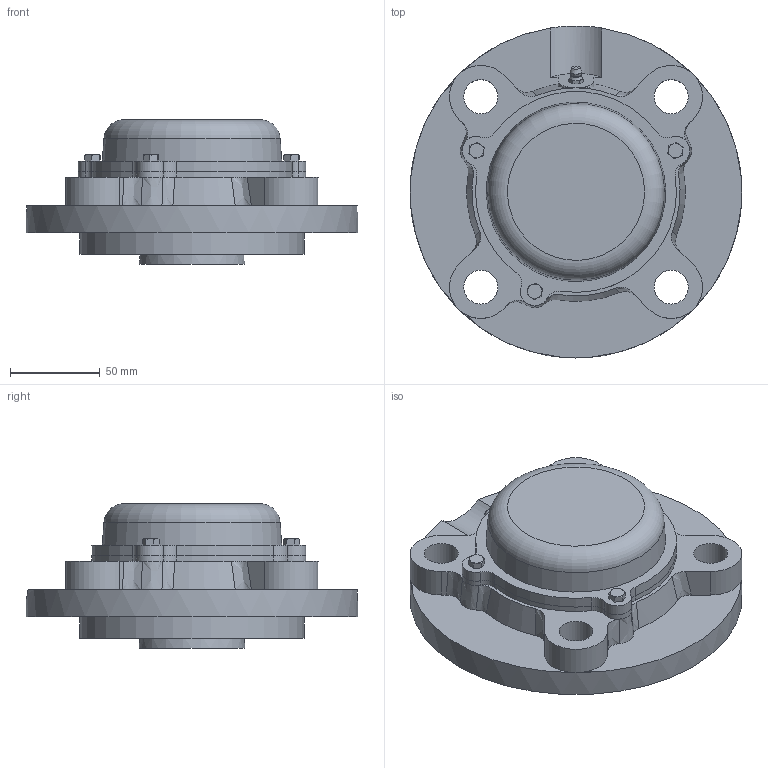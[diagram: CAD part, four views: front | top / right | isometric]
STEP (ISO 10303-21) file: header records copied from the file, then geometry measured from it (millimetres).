
FILE_DESCRIPTION((''),'2;1');
FILE_NAME('\\Ts-tgl068\j-cad-d-base\00.3DCADデータ作成フォルダ\02.フランジ形\CUKFC200\CUKFC211CE+H.stp','2014-05-22T08:58:04',('btec_1106_2'),(''),'Autodesk Inventor 2012','Autodesk Inventor 2012','');
FILE_SCHEMA(('AUTOMOTIVE_DESIGN { 1 0 10303 214 1 1 1 1 }'));
Length unit declared in the file: millimetre
Products named in the file (7): CUKFC200CE+H; CFC211; UK211; GU1; 211CE; M5X0
Assembly tree (8 placements, depth 3):
  CUKFC200CE+H
    CFC211
    UK211
    GU1
    211CE
      211CE
      M5X0  x3
Bounding box: 185 x 185 x 80.5 mm (x, y, z)
Volume: 713310.4 mm3; surface area: 155369.5 mm2
Topology: 7 solids, 7 shells, 337 faces, 877 edges, 567 vertices
Faces by surface type: plane 122, cone 99, cylinder 94, bspline 14, sphere 4, torus 4
Full cylindrical faces by diameter (mm): 4.134 x3, 5 x3, 5.359 x1, 6 x3, 6.35 x1, 19 x4, 50 x1, 70 x2, 98 x1, 102 x1, 125 x1, 185 x1
Entity records: 9861 total; most frequent: CARTESIAN_POINT 2657, ORIENTED_EDGE 1504, DIRECTION 1435, EDGE_CURVE 752, AXIS2_PLACEMENT_3D 590, VERTEX_POINT 505, EDGE_LOOP 372, FACE_OUTER_BOUND 303
